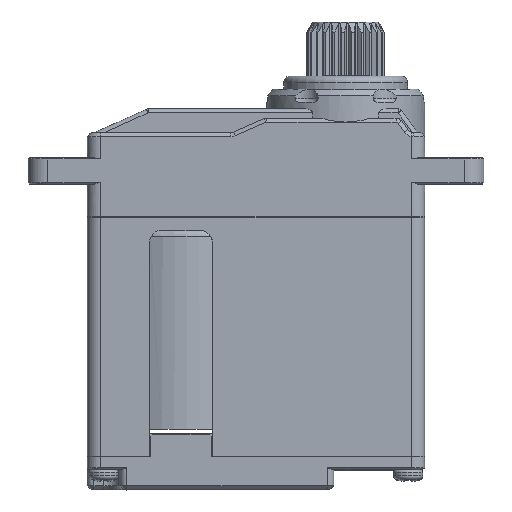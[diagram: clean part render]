
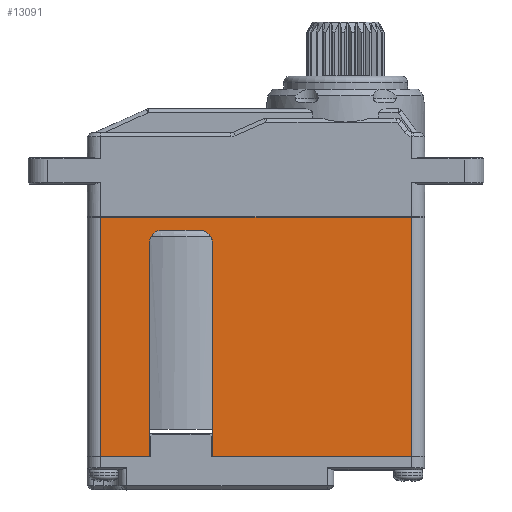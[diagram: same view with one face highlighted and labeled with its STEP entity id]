
A CAD part, top view. The second image highlights one B-rep face of the part: STEP entity #13091.
In plain terms, the highlighted planar face has unit normal (0, 0, 1).
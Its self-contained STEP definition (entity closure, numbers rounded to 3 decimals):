
#645=DIRECTION('',(-1.,0.,0.));
#646=VECTOR('',#645,15.1);
#647=CARTESIAN_POINT('',(11.8,-18.19,6.));
#648=LINE('',#647,#646);
#649=DIRECTION('',(1.,0.,0.));
#650=VECTOR('',#649,2.8);
#651=CARTESIAN_POINT('',(-7.1,-1.,6.));
#652=LINE('',#651,#650);
#653=DIRECTION('',(-1.,0.,0.));
#654=VECTOR('',#653,3.7);
#655=CARTESIAN_POINT('',(-8.1,-18.19,6.));
#656=LINE('',#655,#654);
#657=DIRECTION('',(1.,0.,0.));
#658=VECTOR('',#657,23.6);
#659=CARTESIAN_POINT('',(-11.8,-0.01,6.));
#660=LINE('',#659,#658);
#2135=DIRECTION('',(0.,-1.,0.));
#2136=VECTOR('',#2135,18.18);
#2137=CARTESIAN_POINT('',(-11.8,-0.01,6.));
#2138=LINE('',#2137,#2136);
#3155=DIRECTION('',(0.,1.,0.));
#3156=VECTOR('',#3155,18.18);
#3157=CARTESIAN_POINT('',(11.8,-18.19,6.));
#3158=LINE('',#3157,#3156);
#3380=DIRECTION('',(0.,1.,0.));
#3381=VECTOR('',#3380,16.19);
#3382=CARTESIAN_POINT('',(-8.1,-18.19,6.));
#3383=LINE('',#3382,#3381);
#3415=CARTESIAN_POINT('',(-7.1,-2.,6.));
#3416=DIRECTION('',(0.,0.,-1.));
#3417=DIRECTION('',(-1.,0.,0.));
#3418=AXIS2_PLACEMENT_3D('',#3415,#3416,#3417);
#3608=DIRECTION('',(0.,-1.,0.));
#3609=VECTOR('',#3608,16.19);
#3610=CARTESIAN_POINT('',(-3.3,-2.,6.));
#3611=LINE('',#3610,#3609);
#3865=CARTESIAN_POINT('',(-4.3,-2.,6.));
#3866=DIRECTION('',(0.,0.,-1.));
#3867=DIRECTION('',(0.,1.,0.));
#3868=AXIS2_PLACEMENT_3D('',#3865,#3866,#3867);
#11241=CARTESIAN_POINT('',(-7.1,-1.,6.));
#11242=CARTESIAN_POINT('',(-4.3,-1.,6.));
#11243=VERTEX_POINT('',#11241);
#11244=VERTEX_POINT('',#11242);
#11249=CARTESIAN_POINT('',(-8.1,-2.,6.));
#11250=VERTEX_POINT('',#11249);
#11251=CARTESIAN_POINT('',(-3.3,-2.,6.));
#11252=VERTEX_POINT('',#11251);
#12175=CARTESIAN_POINT('',(-11.8,-0.01,6.));
#12176=CARTESIAN_POINT('',(11.8,-0.01,6.));
#12177=VERTEX_POINT('',#12175);
#12178=VERTEX_POINT('',#12176);
#12255=CARTESIAN_POINT('',(11.8,-18.19,6.));
#12256=CARTESIAN_POINT('',(-3.3,-18.19,6.));
#12257=VERTEX_POINT('',#12255);
#12258=VERTEX_POINT('',#12256);
#12259=CARTESIAN_POINT('',(-8.1,-18.19,6.));
#12260=CARTESIAN_POINT('',(-11.8,-18.19,6.));
#12261=VERTEX_POINT('',#12259);
#12262=VERTEX_POINT('',#12260);
#13064=CARTESIAN_POINT('',(-12.8,0.,6.));
#13065=DIRECTION('',(0.,0.,1.));
#13066=DIRECTION('',(1.,0.,0.));
#13067=AXIS2_PLACEMENT_3D('',#13064,#13065,#13066);
#13068=PLANE('',#13067);
#13070=ORIENTED_EDGE('',*,*,#13069,.T.);
#13072=ORIENTED_EDGE('',*,*,#13071,.F.);
#13074=ORIENTED_EDGE('',*,*,#13073,.F.);
#13076=ORIENTED_EDGE('',*,*,#13075,.F.);
#13078=ORIENTED_EDGE('',*,*,#13077,.F.);
#13080=ORIENTED_EDGE('',*,*,#13079,.F.);
#13082=ORIENTED_EDGE('',*,*,#13081,.T.);
#13084=ORIENTED_EDGE('',*,*,#13083,.F.);
#13086=ORIENTED_EDGE('',*,*,#13085,.T.);
#13088=ORIENTED_EDGE('',*,*,#13087,.F.);
#13089=EDGE_LOOP('',(#13070,#13072,#13074,#13076,#13078,#13080,#13082,#13084,
#13086,#13088));
#13090=FACE_OUTER_BOUND('',#13089,.F.);
#3419=CIRCLE('',#3418,1.);
#3869=CIRCLE('',#3868,1.);
#13069=EDGE_CURVE('',#12257,#12258,#648,.T.);
#13071=EDGE_CURVE('',#11252,#12258,#3611,.T.);
#13073=EDGE_CURVE('',#11244,#11252,#3869,.T.);
#13075=EDGE_CURVE('',#11243,#11244,#652,.T.);
#13077=EDGE_CURVE('',#11250,#11243,#3419,.T.);
#13079=EDGE_CURVE('',#12261,#11250,#3383,.T.);
#13081=EDGE_CURVE('',#12261,#12262,#656,.T.);
#13083=EDGE_CURVE('',#12177,#12262,#2138,.T.);
#13085=EDGE_CURVE('',#12177,#12178,#660,.T.);
#13087=EDGE_CURVE('',#12257,#12178,#3158,.T.);
#13091=ADVANCED_FACE('',(#13090),#13068,.T.);
